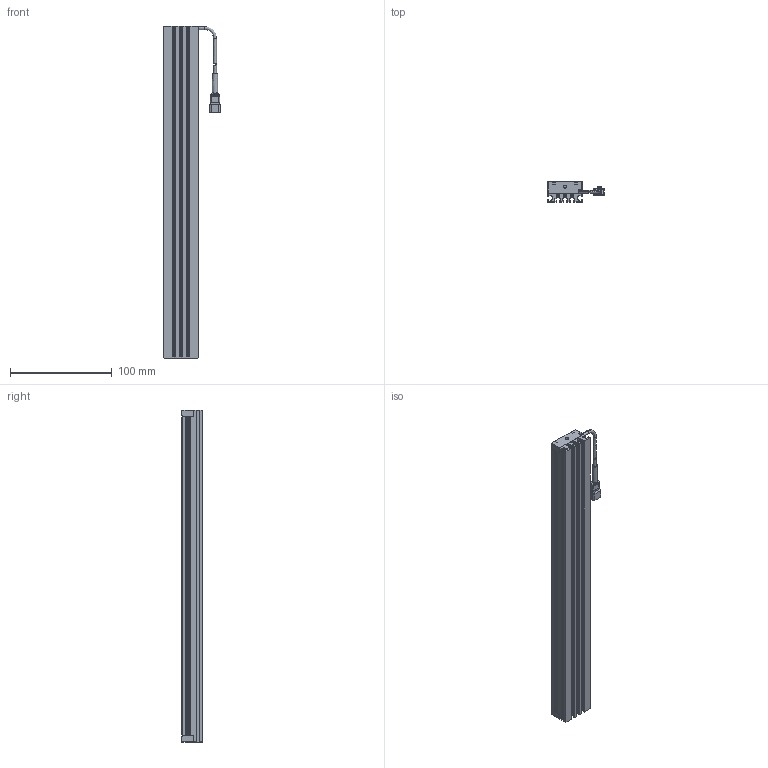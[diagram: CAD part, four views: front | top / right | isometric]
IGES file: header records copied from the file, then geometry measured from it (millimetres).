
Start section: SolidWorks IGES file using NURBS representation for surfaces
Global section: file name: U:\PRODUCTS\80_その他テーマ\RD32114_LDL2-GR2特注の標準化\02_図面\提出用\3D\41_LDL2-314X30GR2\LDL2-314X30GR2.IGS; native system: SolidWorks 2022; preprocessor: SolidWorks 2022; author: takaomc; date: 241001.113324; units: millimetre
Bounding box: 55.75 x 20 x 326 mm (x, y, z)
Surface area: 97992.8 mm2 (no closed solid volume)
Topology: 0 solids, 0 shells, 481 faces, 4582 edges, 4566 vertices
Faces by surface type: bspline 481
